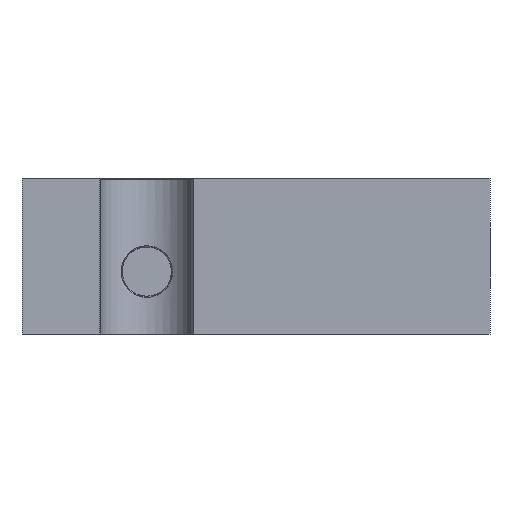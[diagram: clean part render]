
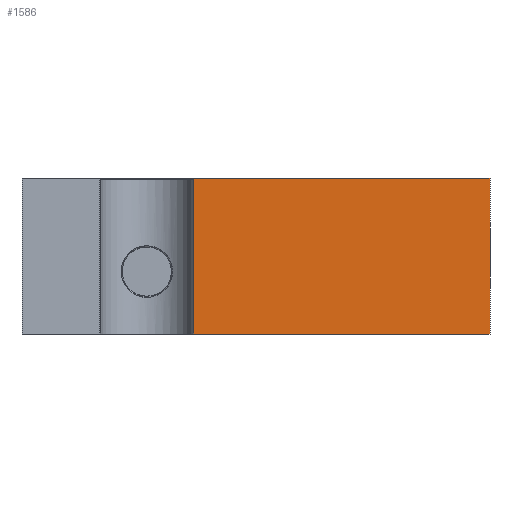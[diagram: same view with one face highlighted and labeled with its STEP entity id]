
A CAD part, left-side view. The second image highlights one B-rep face of the part: STEP entity #1586.
In plain terms, the highlighted planar face has unit normal (-1, 0, 0).
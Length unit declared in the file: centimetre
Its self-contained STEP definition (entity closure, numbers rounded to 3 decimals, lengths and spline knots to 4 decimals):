
#700=VECTOR('',#1775,1.);
#722=VECTOR('',#1852,1.);
#738=VECTOR('',#1894,1.);
#741=VECTOR('',#1899,1.);
#751=LINE('',#2052,#700);
#773=LINE('',#2168,#722);
#789=LINE('',#2214,#738);
#792=LINE('',#2220,#741);
#808=VERTEX_POINT('',#2051);
#809=VERTEX_POINT('',#2053);
#837=VERTEX_POINT('',#2167);
#852=VERTEX_POINT('',#2213);
#965=EDGE_CURVE('',#809,#808,#751,.T.);
#1002=EDGE_CURVE('',#808,#837,#773,.T.);
#1027=EDGE_CURVE('',#837,#852,#789,.T.);
#1030=EDGE_CURVE('',#852,#809,#792,.T.);
#1223=ORIENTED_EDGE('',*,*,#1027,.T.);
#1224=ORIENTED_EDGE('',*,*,#1030,.T.);
#1225=ORIENTED_EDGE('',*,*,#965,.T.);
#1226=ORIENTED_EDGE('',*,*,#1002,.T.);
#1403=EDGE_LOOP('',(#1223,#1224,#1225,#1226));
#1505=FACE_BOUND('',#1403,.T.);
#1586=ADVANCED_FACE('',(#1505),#11854,.T.);
#1681=AXIS2_PLACEMENT_3D('',#2219,#1898,$);
#1775=DIRECTION('',(0.,0.,1.));
#1852=DIRECTION('',(0.,1.,0.));
#1894=DIRECTION('',(0.,0.,-1.));
#1898=DIRECTION('',(-1.,0.,0.));
#1899=DIRECTION('',(0.,-1.,0.));
#2051=CARTESIAN_POINT('',(-2.,-1.5,0.5));
#2052=CARTESIAN_POINT('',(-2.,-1.5,-0.5));
#2053=CARTESIAN_POINT('',(-2.,-1.5,-0.5));
#2167=CARTESIAN_POINT('',(-2.,0.4,0.5));
#2168=CARTESIAN_POINT('',(-2.,1.5,0.5));
#2213=CARTESIAN_POINT('',(-2.,0.4,-0.5));
#2214=CARTESIAN_POINT('',(-2.,0.4,-2.5495));
#2219=CARTESIAN_POINT('',(-2.,0.,-0.5));
#2220=CARTESIAN_POINT('',(-2.,1.5,-0.5));
#11854=PLANE('',#1681);
